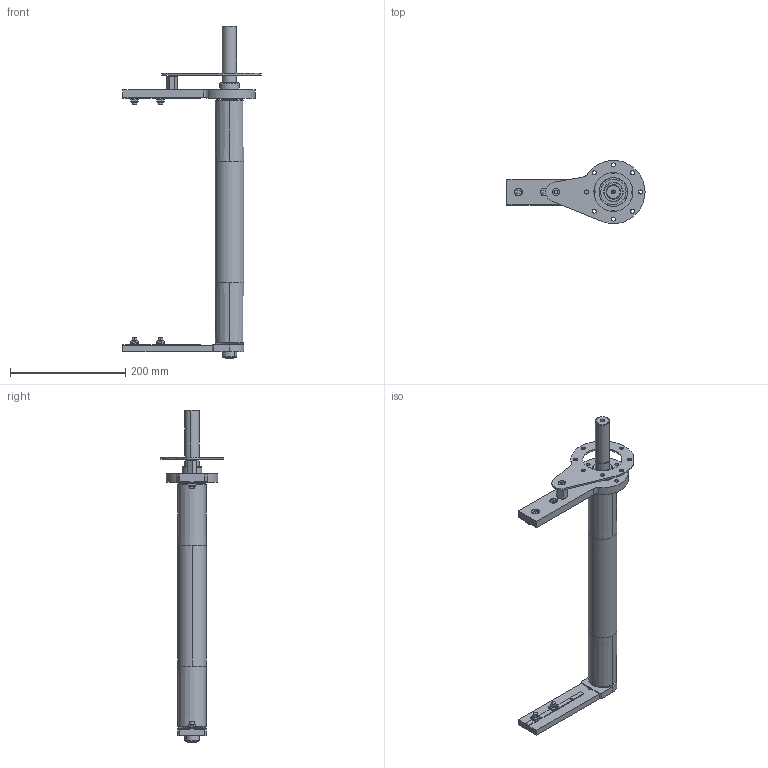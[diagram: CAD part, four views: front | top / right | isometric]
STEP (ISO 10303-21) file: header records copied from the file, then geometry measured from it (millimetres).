
FILE_DESCRIPTION (( 'STEP AP203' ), '1' );
FILE_NAME ('084.050.KD.49.400.STEP', '2015-06-03T08:57:22', ( '' ), ( '' ), 'SwSTEP 2.0', 'SolidWorks 2012', '' );
FILE_SCHEMA (( 'CONFIG_CONTROL_DESIGN' ));
Length unit declared in the file: millimetre
Products named in the file (1): 084.050.KD.49.400
Bounding box: 240 x 110 x 577 mm (x, y, z)
Volume: 686067.3 mm3; surface area: 350779.4 mm2
Topology: 24 solids, 25 shells, 607 faces, 1526 edges, 990 vertices
Faces by surface type: plane 251, cylinder 228, torus 68, cone 51, sphere 9
Entity records: 19005 total; most frequent: CARTESIAN_POINT 3773, DIRECTION 3400, ORIENTED_EDGE 3008, EDGE_CURVE 1504, AXIS2_PLACEMENT_3D 1354, VERTEX_POINT 979, CIRCLE 747, EDGE_LOOP 725
